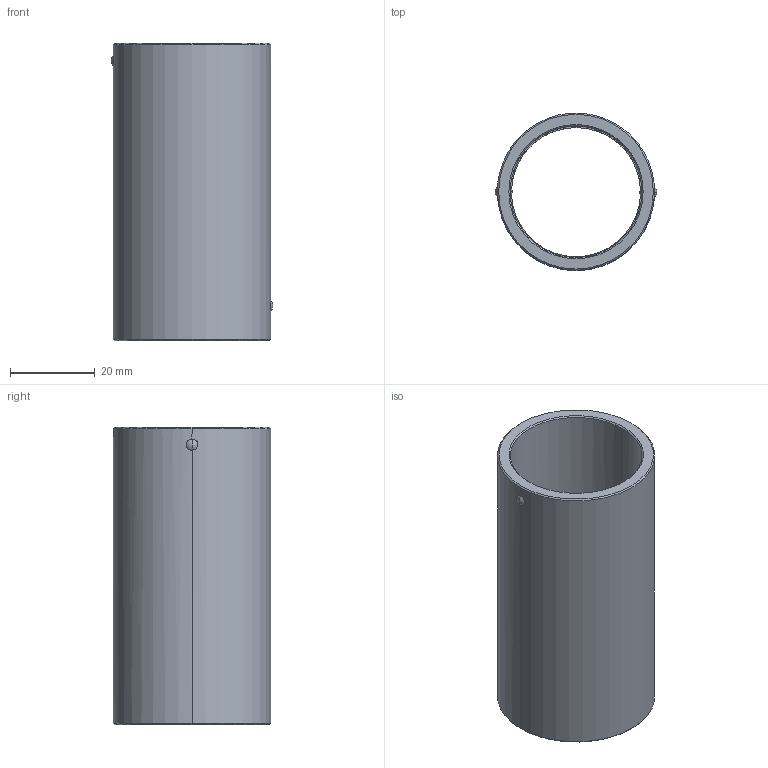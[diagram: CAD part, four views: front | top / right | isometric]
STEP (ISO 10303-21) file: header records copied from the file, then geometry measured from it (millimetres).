
FILE_DESCRIPTION(('CATIA V5 STEP Exchange'),'2;1');
FILE_NAME('C:\Users\Utente\Desktop\IO LAVORO\3D X SITO CF\X SITO\730\730-30x70.stp','2021-01-07T16:13:51+00:00',('none'),('none'),'CATIA Version 5 Release 20 GA (IN-10)','CATIA V5 STEP AP203','none');
FILE_SCHEMA(('CONFIG_CONTROL_DESIGN'));
Length unit declared in the file: millimetre
Products named in the file (1): 730-30x70
Bounding box: 37.99 x 37 x 70 mm (x, y, z)
Volume: 21805.6 mm3; surface area: 15887.2 mm2
Topology: 1 solids, 1 shells, 44 faces, 120 edges, 76 vertices
Faces by surface type: cylinder 18, cone 10, plane 8, sphere 8
Entity records: 1722 total; most frequent: CARTESIAN_POINT 655, ORIENTED_EDGE 240, DIRECTION 161, EDGE_CURVE 120, AXIS2_PLACEMENT_3D 80, VERTEX_POINT 76, EDGE_LOOP 48, B_SPLINE_CURVE_WITH_KNOTS 47
